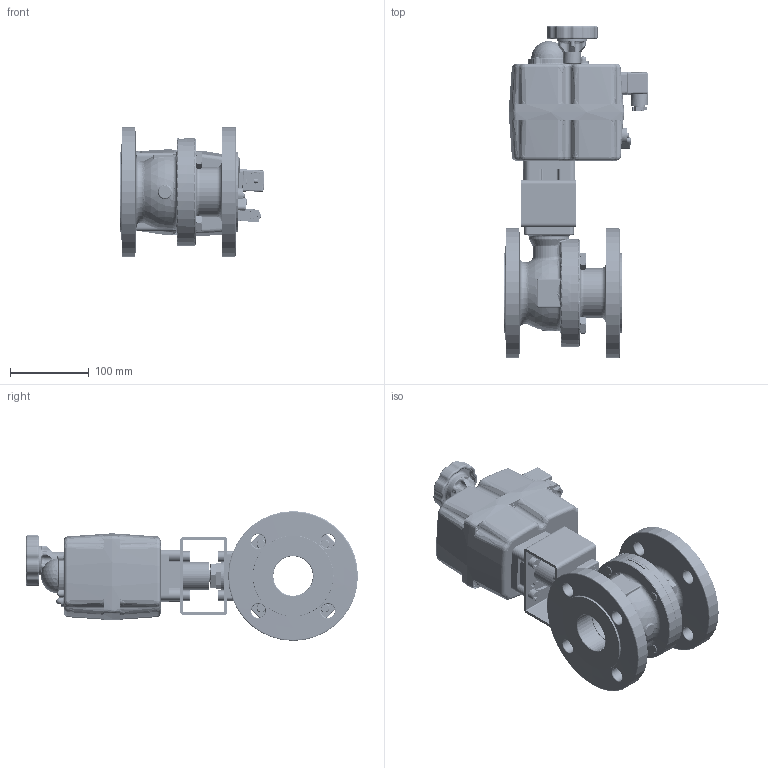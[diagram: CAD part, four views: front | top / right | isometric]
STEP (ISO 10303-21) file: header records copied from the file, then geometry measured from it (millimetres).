
FILE_DESCRIPTION((''),'2;1');
FILE_NAME('M:\3D-Files nach Lieferanten\TA-Produkte\angetriebene Armaturen\Register 9\RB76000x\760000050S55.stp','2022-01-27T15:49:15',('RL'),(''),'Autodesk Inventor 2012','Autodesk Inventor 2012','');
FILE_SCHEMA(('AUTOMOTIVE_DESIGN { 1 0 10303 214 1 1 1 1 }'));
Length unit declared in the file: millimetre
Products named in the file (1): 760000050S55
Bounding box: 183.87 x 422 x 165 mm (x, y, z)
Volume: 16067.8 mm3; surface area: 473453.1 mm2
Topology: 31 solids, 36 shells, 3603 faces, 9127 edges, 5632 vertices
Faces by surface type: plane 1259, cylinder 953, cone 580, torus 450, bspline 251, sphere 110
Full cylindrical faces by diameter (mm): 1.5 x4, 2.5 x4, 3 x47, 3.5 x13, 3.75 x2, 3.8 x1, 3.9 x6, 4 x36, 4.25 x6, 4.5 x4, 5 x10, 5.7 x3, 6 x7, 6.4 x4, 6.5 x3, 7 x13, 7.5 x7, 8 x20, 8.05 x1, 9 x2, 10 x8, 10.2 x1, 10.5 x1, 10.75 x1, 11 x1, 11.5 x1, 12 x4, 12.3 x1, 12.75 x1, 12.8 x1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
Entity records: 150272 total; most frequent: CARTESIAN_POINT 69051, DIRECTION 17144, ORIENTED_EDGE 15774, EDGE_CURVE 7887, AXIS2_PLACEMENT_3D 7003, VERTEX_POINT 5325, EDGE_LOOP 4731, FACE_OUTER_BOUND 3603
